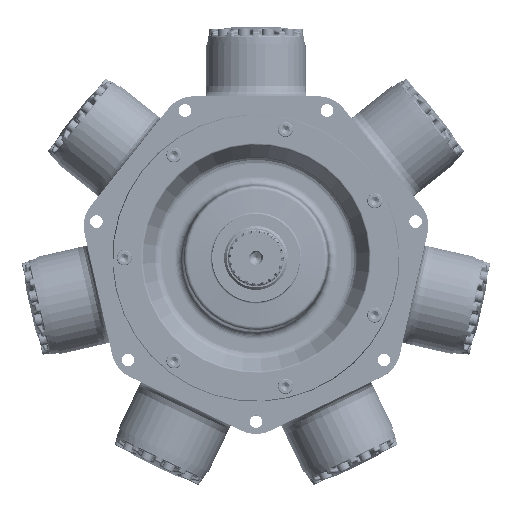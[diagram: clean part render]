
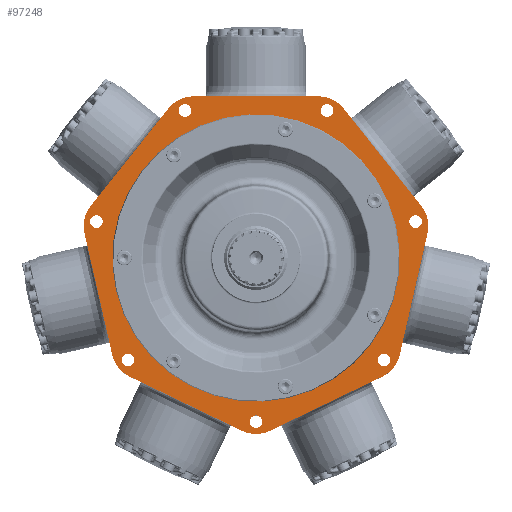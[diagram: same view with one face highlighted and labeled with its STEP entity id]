
A CAD part, top view. The second image highlights one B-rep face of the part: STEP entity #97248.
In plain terms, the highlighted planar face has unit normal (0, 0, 1).
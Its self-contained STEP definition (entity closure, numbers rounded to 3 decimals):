
#9373=FACE_BOUND('',#18800,.T.);
#9374=FACE_BOUND('',#18801,.T.);
#9375=FACE_BOUND('',#18802,.T.);
#9376=FACE_BOUND('',#18803,.T.);
#9377=FACE_BOUND('',#18804,.T.);
#9378=FACE_BOUND('',#18805,.T.);
#9379=FACE_BOUND('',#18806,.T.);
#9380=FACE_BOUND('',#18807,.T.);
#9712=PLANE('',#103464);
#12619=FACE_OUTER_BOUND('',#18799,.T.);
#18799=EDGE_LOOP('',(#61686,#61687,#61688,#61689,#61690,#61691,#61692,#61693,
#61694,#61695,#61696,#61697,#61698,#61699));
#18800=EDGE_LOOP('',(#61700));
#18801=EDGE_LOOP('',(#61701));
#18802=EDGE_LOOP('',(#61702));
#18803=EDGE_LOOP('',(#61703));
#18804=EDGE_LOOP('',(#61704));
#18805=EDGE_LOOP('',(#61705));
#18806=EDGE_LOOP('',(#61706));
#18807=EDGE_LOOP('',(#61707));
#25295=LINE('',#132871,#29804);
#25296=LINE('',#132875,#29805);
#25297=LINE('',#132879,#29806);
#25298=LINE('',#132883,#29807);
#25299=LINE('',#132887,#29808);
#25300=LINE('',#132891,#29809);
#25301=LINE('',#132895,#29810);
#29804=VECTOR('',#111744,10.);
#29805=VECTOR('',#111747,10.);
#29806=VECTOR('',#111750,10.);
#29807=VECTOR('',#111753,10.);
#29808=VECTOR('',#111756,10.);
#29809=VECTOR('',#111759,10.);
#29810=VECTOR('',#111762,10.);
#34315=CIRCLE('',#103465,50.8);
#34316=CIRCLE('',#103466,50.8);
#34317=CIRCLE('',#103467,50.8);
#34318=CIRCLE('',#103468,50.8);
#34319=CIRCLE('',#103469,50.8);
#34320=CIRCLE('',#103470,50.8);
#34321=CIRCLE('',#103471,50.8);
#34322=CIRCLE('',#103472,10.);
#34323=CIRCLE('',#103473,10.);
#34324=CIRCLE('',#103474,10.);
#34325=CIRCLE('',#103475,10.);
#34326=CIRCLE('',#103476,10.);
#34327=CIRCLE('',#103477,10.);
#34328=CIRCLE('',#103478,10.);
#34329=CIRCLE('',#103479,228.555);
#38220=VERTEX_POINT('',#132869);
#38221=VERTEX_POINT('',#132870);
#38222=VERTEX_POINT('',#132872);
#38223=VERTEX_POINT('',#132874);
#38224=VERTEX_POINT('',#132876);
#38225=VERTEX_POINT('',#132878);
#38226=VERTEX_POINT('',#132880);
#38227=VERTEX_POINT('',#132882);
#38228=VERTEX_POINT('',#132884);
#38229=VERTEX_POINT('',#132886);
#38230=VERTEX_POINT('',#132888);
#38231=VERTEX_POINT('',#132890);
#38232=VERTEX_POINT('',#132892);
#38233=VERTEX_POINT('',#132894);
#38234=VERTEX_POINT('',#132897);
#38235=VERTEX_POINT('',#132899);
#38236=VERTEX_POINT('',#132901);
#38237=VERTEX_POINT('',#132903);
#38238=VERTEX_POINT('',#132905);
#38239=VERTEX_POINT('',#132907);
#38240=VERTEX_POINT('',#132909);
#38241=VERTEX_POINT('',#132911);
#47021=EDGE_CURVE('',#38220,#38221,#25295,.T.);
#47022=EDGE_CURVE('',#38222,#38220,#34315,.T.);
#47023=EDGE_CURVE('',#38223,#38222,#25296,.T.);
#47024=EDGE_CURVE('',#38224,#38223,#34316,.T.);
#47025=EDGE_CURVE('',#38225,#38224,#25297,.T.);
#47026=EDGE_CURVE('',#38226,#38225,#34317,.T.);
#47027=EDGE_CURVE('',#38227,#38226,#25298,.T.);
#47028=EDGE_CURVE('',#38228,#38227,#34318,.T.);
#47029=EDGE_CURVE('',#38229,#38228,#25299,.T.);
#47030=EDGE_CURVE('',#38230,#38229,#34319,.T.);
#47031=EDGE_CURVE('',#38231,#38230,#25300,.T.);
#47032=EDGE_CURVE('',#38232,#38231,#34320,.T.);
#47033=EDGE_CURVE('',#38233,#38232,#25301,.T.);
#47034=EDGE_CURVE('',#38221,#38233,#34321,.T.);
#47035=EDGE_CURVE('',#38234,#38234,#34322,.T.);
#47036=EDGE_CURVE('',#38235,#38235,#34323,.T.);
#47037=EDGE_CURVE('',#38236,#38236,#34324,.T.);
#47038=EDGE_CURVE('',#38237,#38237,#34325,.T.);
#47039=EDGE_CURVE('',#38238,#38238,#34326,.T.);
#47040=EDGE_CURVE('',#38239,#38239,#34327,.T.);
#47041=EDGE_CURVE('',#38240,#38240,#34328,.T.);
#47042=EDGE_CURVE('',#38241,#38241,#34329,.T.);
#61686=ORIENTED_EDGE('',*,*,#47021,.F.);
#61687=ORIENTED_EDGE('',*,*,#47022,.F.);
#61688=ORIENTED_EDGE('',*,*,#47023,.F.);
#61689=ORIENTED_EDGE('',*,*,#47024,.F.);
#61690=ORIENTED_EDGE('',*,*,#47025,.F.);
#61691=ORIENTED_EDGE('',*,*,#47026,.F.);
#61692=ORIENTED_EDGE('',*,*,#47027,.F.);
#61693=ORIENTED_EDGE('',*,*,#47028,.F.);
#61694=ORIENTED_EDGE('',*,*,#47029,.F.);
#61695=ORIENTED_EDGE('',*,*,#47030,.F.);
#61696=ORIENTED_EDGE('',*,*,#47031,.F.);
#61697=ORIENTED_EDGE('',*,*,#47032,.F.);
#61698=ORIENTED_EDGE('',*,*,#47033,.F.);
#61699=ORIENTED_EDGE('',*,*,#47034,.F.);
#61700=ORIENTED_EDGE('',*,*,#47035,.T.);
#61701=ORIENTED_EDGE('',*,*,#47036,.T.);
#61702=ORIENTED_EDGE('',*,*,#47037,.T.);
#61703=ORIENTED_EDGE('',*,*,#47038,.T.);
#61704=ORIENTED_EDGE('',*,*,#47039,.T.);
#61705=ORIENTED_EDGE('',*,*,#47040,.T.);
#61706=ORIENTED_EDGE('',*,*,#47041,.T.);
#61707=ORIENTED_EDGE('',*,*,#47042,.F.);
#97248=ADVANCED_FACE('',(#12619,#9373,#9374,#9375,#9376,#9377,#9378,#9379,
#9380),#9712,.F.);
#103464=AXIS2_PLACEMENT_3D('',#132868,#111742,#111743);
#103465=AXIS2_PLACEMENT_3D('',#132873,#111745,#111746);
#103466=AXIS2_PLACEMENT_3D('',#132877,#111748,#111749);
#103467=AXIS2_PLACEMENT_3D('',#132881,#111751,#111752);
#103468=AXIS2_PLACEMENT_3D('',#132885,#111754,#111755);
#103469=AXIS2_PLACEMENT_3D('',#132889,#111757,#111758);
#103470=AXIS2_PLACEMENT_3D('',#132893,#111760,#111761);
#103471=AXIS2_PLACEMENT_3D('',#132896,#111763,#111764);
#103472=AXIS2_PLACEMENT_3D('',#132898,#111765,#111766);
#103473=AXIS2_PLACEMENT_3D('',#132900,#111767,#111768);
#103474=AXIS2_PLACEMENT_3D('',#132902,#111769,#111770);
#103475=AXIS2_PLACEMENT_3D('',#132904,#111771,#111772);
#103476=AXIS2_PLACEMENT_3D('',#132906,#111773,#111774);
#103477=AXIS2_PLACEMENT_3D('',#132908,#111775,#111776);
#103478=AXIS2_PLACEMENT_3D('',#132910,#111777,#111778);
#103479=AXIS2_PLACEMENT_3D('',#132912,#111779,#111780);
#111742=DIRECTION('center_axis',(0.,0.,-1.));
#111743=DIRECTION('ref_axis',(-1.,0.,0.));
#111744=DIRECTION('',(0.623,0.782,0.));
#111745=DIRECTION('center_axis',(0.,0.,-1.));
#111746=DIRECTION('ref_axis',(-0.975,-0.223,0.));
#111747=DIRECTION('',(-0.223,0.975,0.));
#111748=DIRECTION('center_axis',(0.,0.,-1.));
#111749=DIRECTION('ref_axis',(-0.434,-0.901,0.));
#111750=DIRECTION('',(-0.901,0.434,0.));
#111751=DIRECTION('center_axis',(0.,0.,-1.));
#111752=DIRECTION('ref_axis',(0.434,-0.901,0.));
#111753=DIRECTION('',(-0.901,-0.434,0.));
#111754=DIRECTION('center_axis',(0.,0.,-1.));
#111755=DIRECTION('ref_axis',(0.975,-0.223,0.));
#111756=DIRECTION('',(-0.223,-0.975,0.));
#111757=DIRECTION('center_axis',(0.,0.,-1.));
#111758=DIRECTION('ref_axis',(0.782,0.623,0.));
#111759=DIRECTION('',(0.623,-0.782,0.));
#111760=DIRECTION('center_axis',(0.,0.,-1.));
#111761=DIRECTION('ref_axis',(0.,1.,0.));
#111762=DIRECTION('',(1.,0.,0.));
#111763=DIRECTION('center_axis',(0.,0.,-1.));
#111764=DIRECTION('ref_axis',(-0.782,0.623,0.));
#111765=DIRECTION('center_axis',(0.,0.,-1.));
#111766=DIRECTION('ref_axis',(1.,0.,0.));
#111767=DIRECTION('center_axis',(0.,0.,-1.));
#111768=DIRECTION('ref_axis',(1.,0.,0.));
#111769=DIRECTION('center_axis',(0.,0.,-1.));
#111770=DIRECTION('ref_axis',(1.,0.,0.));
#111771=DIRECTION('center_axis',(0.,0.,-1.));
#111772=DIRECTION('ref_axis',(1.,0.,0.));
#111773=DIRECTION('center_axis',(0.,0.,-1.));
#111774=DIRECTION('ref_axis',(1.,0.,0.));
#111775=DIRECTION('center_axis',(0.,0.,-1.));
#111776=DIRECTION('ref_axis',(1.,0.,0.));
#111777=DIRECTION('center_axis',(0.,0.,-1.));
#111778=DIRECTION('ref_axis',(1.,0.,0.));
#111779=DIRECTION('center_axis',(0.,0.,
1.));
#111780=DIRECTION('ref_axis',(0.223,-0.975,0.));
#132868=CARTESIAN_POINT('Origin',(0.,439.494,-6.59));
#132869=CARTESIAN_POINT('',(-263.033,82.644,-6.59));
#132870=CARTESIAN_POINT('',(-139.102,238.048,-6.59));
#132871=CARTESIAN_POINT('',(-62.966,333.52,-6.59));
#132872=CARTESIAN_POINT('',(-272.842,39.666,-6.59));
#132873=CARTESIAN_POINT('Origin',(-223.316,50.97,-6.59));
#132874=CARTESIAN_POINT('',(-228.612,-154.12,-6.59));
#132875=CARTESIAN_POINT('',(-309.457,200.086,-6.59));
#132876=CARTESIAN_POINT('',(-201.127,-188.585,-6.59));
#132877=CARTESIAN_POINT('Origin',(-179.086,-142.816,-6.59));
#132878=CARTESIAN_POINT('',(-22.041,-274.828,-6.59));
#132879=CARTESIAN_POINT('',(-242.258,-168.777,-6.59));
#132880=CARTESIAN_POINT('',(22.041,-274.828,-6.59));
#132881=CARTESIAN_POINT('Origin',(0.,-229.059,
-6.59));
#132882=CARTESIAN_POINT('',(201.127,-188.585,-6.59));
#132883=CARTESIAN_POINT('',(152.715,-211.899,-6.59));
#132884=CARTESIAN_POINT('',(228.612,-154.12,-6.59));
#132885=CARTESIAN_POINT('Origin',(179.086,-142.816,-6.59));
#132886=CARTESIAN_POINT('',(272.842,39.666,-6.59));
#132887=CARTESIAN_POINT('',(287.342,103.193,-6.59));
#132888=CARTESIAN_POINT('',(263.033,82.644,-6.59));
#132889=CARTESIAN_POINT('Origin',(223.316,50.97,-6.59));
#132890=CARTESIAN_POINT('',(139.102,238.048,-6.59));
#132891=CARTESIAN_POINT('',(124.931,255.818,-6.59));
#132892=CARTESIAN_POINT('',(99.385,257.175,-6.59));
#132893=CARTESIAN_POINT('Origin',(99.385,206.375,-6.59));
#132894=CARTESIAN_POINT('',(-99.385,257.175,-6.59));
#132895=CARTESIAN_POINT('',(49.692,257.175,-6.59));
#132896=CARTESIAN_POINT('Origin',(-99.385,206.375,-6.59));
#132897=CARTESIAN_POINT('',(-10.,-260.35,-6.59));
#132898=CARTESIAN_POINT('Origin',(0.,-260.35,-6.59));
#132899=CARTESIAN_POINT('',(243.822,57.933,-6.59));
#132900=CARTESIAN_POINT('Origin',(253.822,57.933,-6.59));
#132901=CARTESIAN_POINT('',(-263.822,57.933,-6.59));
#132902=CARTESIAN_POINT('Origin',(-253.822,57.933,-6.59));
#132903=CARTESIAN_POINT('',(193.55,-162.326,-6.59));
#132904=CARTESIAN_POINT('Origin',(203.55,-162.326,-6.59));
#132905=CARTESIAN_POINT('',(102.962,234.567,-6.59));
#132906=CARTESIAN_POINT('Origin',(112.962,234.567,-6.59));
#132907=CARTESIAN_POINT('',(-122.962,234.567,-6.59));
#132908=CARTESIAN_POINT('Origin',(-112.962,234.567,-6.59));
#132909=CARTESIAN_POINT('',(-213.55,-162.326,-6.59));
#132910=CARTESIAN_POINT('Origin',(-203.55,-162.326,-6.59));
#132911=CARTESIAN_POINT('',(222.825,50.858,-6.59));
#132912=CARTESIAN_POINT('Origin',(0.,0.,
-6.59));
